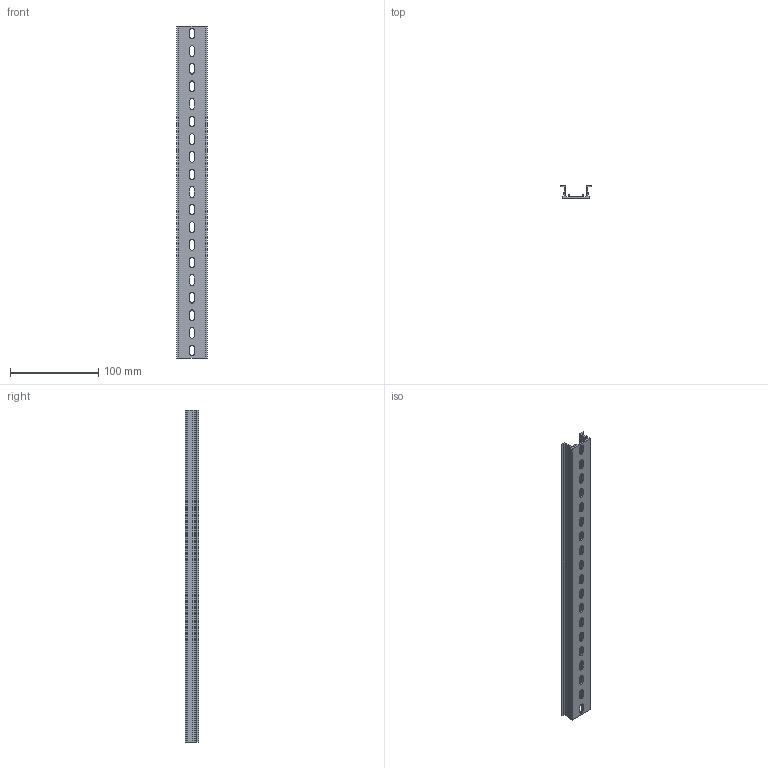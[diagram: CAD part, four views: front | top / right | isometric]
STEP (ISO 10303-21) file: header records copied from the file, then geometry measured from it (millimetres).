
FILE_DESCRIPTION(/* description */ (''),/* implementation_level */ '2;1');
FILE_NAME(/* name */ '22647-(TKB KD-19)HP 3D.stp',/* time_stamp */ '2024-12-05T14:01:29+09:00',/* author */ ('usercadg104'),/* organization */ (''),/* preprocessor_version */ 'ST-DEVELOPER v19.2',/* originating_system */ 'Autodesk Inventor 2023',/* authorisation */ '');
FILE_SCHEMA (('CONFIG_CONTROL_DESIGN'));
Length unit declared in the file: millimetre
Products named in the file (1): TKB KD-3(林)
Bounding box: 35 x 15 x 377 mm (x, y, z)
Volume: 44099.5 mm3; surface area: 51057.2 mm2
Topology: 1 solids, 1 shells, 116 faces, 342 edges, 228 vertices
Faces by surface type: plane 74, cylinder 42
Entity records: 3989 total; most frequent: CARTESIAN_POINT 687, ORIENTED_EDGE 684, DIRECTION 660, EDGE_CURVE 342, LINE 258, VECTOR 258, VERTEX_POINT 228, AXIS2_PLACEMENT_3D 201
